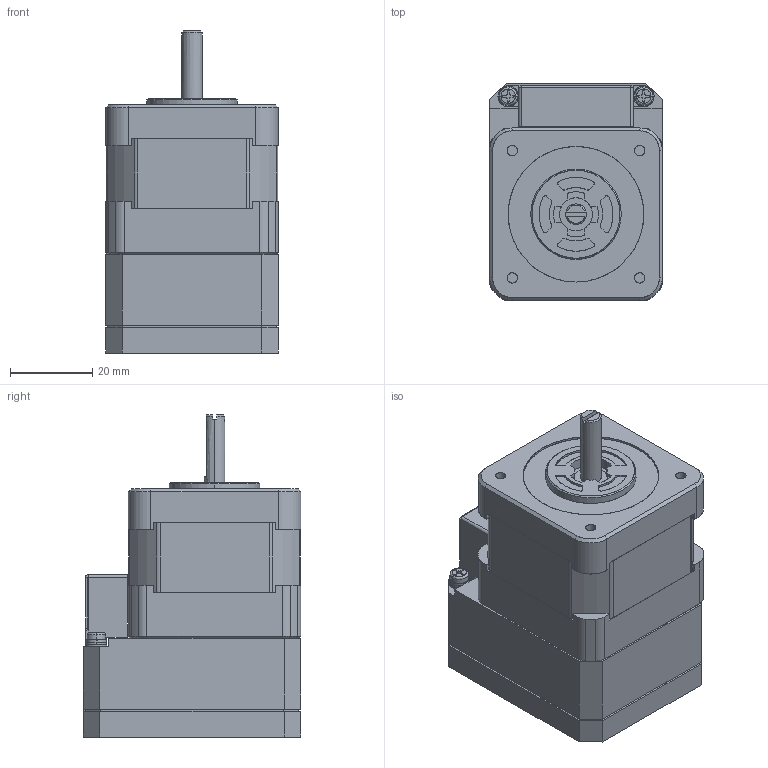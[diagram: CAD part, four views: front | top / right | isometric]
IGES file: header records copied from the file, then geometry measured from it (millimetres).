
Start section: SolidWorks IGES file using analytic representation for surfaces
Global section: file name: C:\Documents and Settings\3DCAD\デスクトップ\liujie\CM1新型ケース\HP図\CM1-＊-17S30C_Web.IGS; native system: SolidWorks 2010; preprocessor: SolidWorks 2010; author: 3DCAD; date: 110120.142430; units: millimetre
Bounding box: 42 x 53 x 78.4 mm (x, y, z)
Surface area: 22279 mm2 (no closed solid volume)
Topology: 0 solids, 0 shells, 850 faces, 6152 edges, 6144 vertices
Faces by surface type: bspline 605, revolution 245
